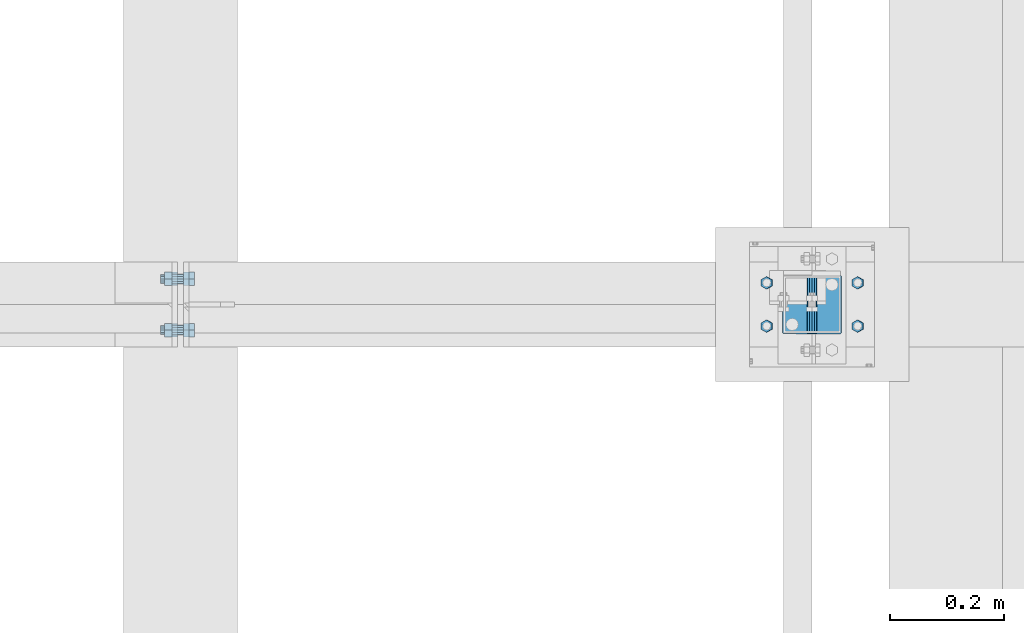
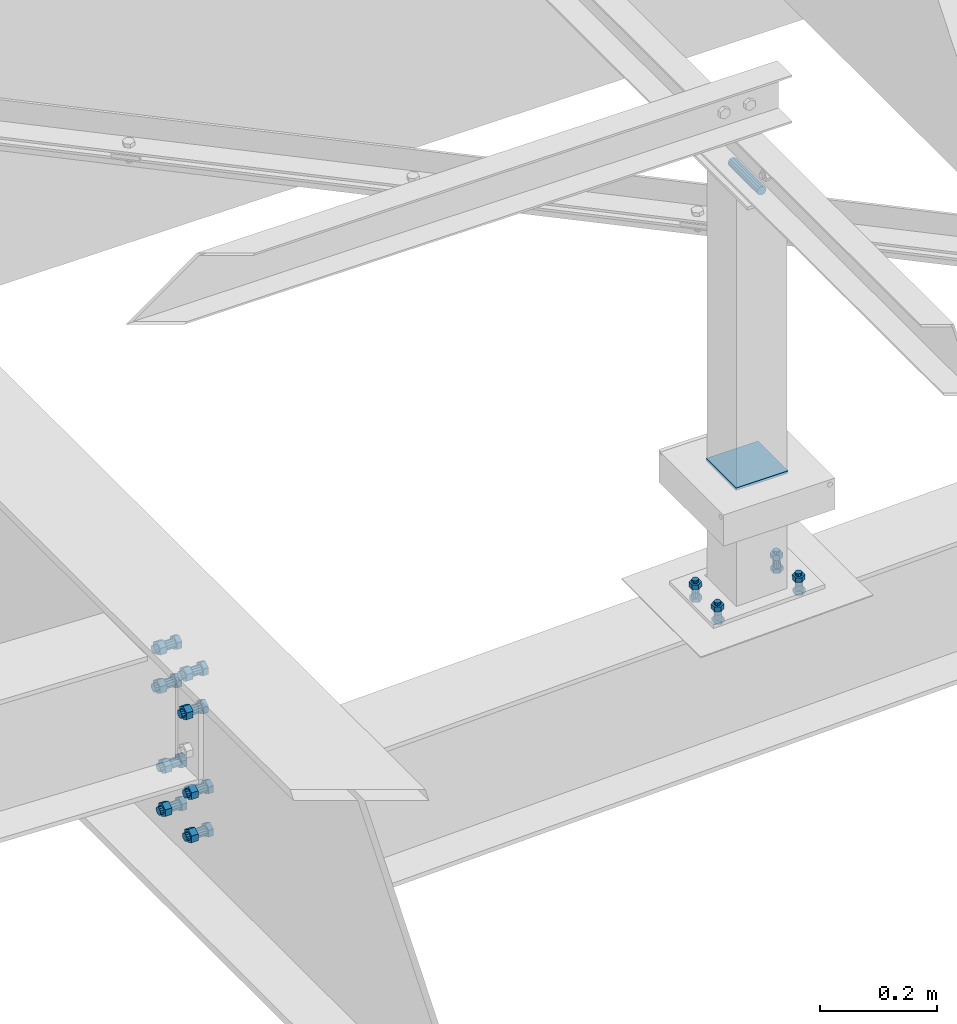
# One storey, part 193 of 3134: 7 mechanical fasteners, 3 elements without a shape of their own.
"""IFC2X3 building model written with IfcOpenShell, lengths in millimetres."""

from ifc_helpers import new_model, si_unit, frame, origin_with_axes, place, context, subcontext, project, spatial, faceted_brep, source, transform, mapped, material, type_object, element, aggregate, save


model = new_model("IFC2X3")

# Units and contexts
model_context = context("Model", 3, precision=1e-05, world=origin_with_axes())
body_context = subcontext(model_context, "Body", "Model", "MODEL_VIEW")
ifc_project = project(units=[si_unit("LENGTHUNIT", "METRE", prefix="MILLI"), si_unit("AREAUNIT", "SQUARE_METRE"), si_unit("VOLUMEUNIT", "CUBIC_METRE"), si_unit("MASSUNIT", "GRAM", prefix="KILO"), si_unit("TIMEUNIT", "SECOND"), si_unit("PLANEANGLEUNIT", "RADIAN"), si_unit("SOLIDANGLEUNIT", "STERADIAN"), si_unit("THERMODYNAMICTEMPERATUREUNIT", "DEGREE_CELSIUS"), si_unit("LUMINOUSINTENSITYUNIT", "LUMEN")], contexts=[model_context])

# Site, building, storey
site_placement = place(None, origin_with_axes())
site = spatial("IfcSite", under=ifc_project, at=site_placement, CompositionType="ELEMENT")
building_placement = place(site_placement, origin_with_axes())
building = spatial("IfcBuilding", under=site, at=building_placement, Name="Undefined", CompositionType="ELEMENT")
storey_placement = place(building_placement, origin_with_axes())
storey = spatial("IfcBuildingStorey", under=building, at=storey_placement, Name="Undefined", CompositionType="ELEMENT", Elevation=0.0)

# Assembly, mechanical fasteners
assembly_1_placement = place(storey_placement, origin_with_axes())
assembly_1 = element("IfcElementAssembly", 1, at=assembly_1_placement, inside=storey, Name="IPE500", AssemblyPlace="NOTDEFINED", PredefinedType="RIGID_FRAME")
ifc_material_1 = material(Name="8.8")
mechanical_fastener_type = type_object("IfcMechanicalFastenerType", Name="Bolt assembly")
shared_shape_1 = source(origin_with_axes(), body_context, "Body", "Brep", [
    faceted_brep([(13.856406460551, 0.0, 0.0), (6.92820323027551, 0.0, 12.0), (-6.92820323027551, 0.0, 12.0), (-13.856406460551, 0.0, 1.69692038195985e-15), (-6.92820323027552, 0.0, -12.0), (6.9282032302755, 0.0, -12.0), (6.9282032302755, 9.99999995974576, -12.0), (-6.92820323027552, 9.99999995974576, -12.0), (-13.856406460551, 9.99999995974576, 1.69692038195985e-15), (-6.92820323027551, 9.99999995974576, 12.0), (6.92820323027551, 9.99999995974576, 12.0), (13.856406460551, 9.99999995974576, 0.0), (8.0, 9.99999995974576, 0.0), (6.92820323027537, 9.99999995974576, 4.00000000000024), (3.99999999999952, 9.99999995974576, 6.92820323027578), (-8.29068785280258e-13, 9.99999995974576, 8.0), (-4.00000000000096, 9.99999995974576, 6.92820323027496), (-6.9282032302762, 9.99999995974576, 3.99999999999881), (-8.0, 9.99999995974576, -1.65813757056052e-12), (-6.92820323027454, 9.99999995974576, -4.00000000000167), (-3.99999999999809, 9.99999995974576, -6.92820323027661), (2.47832457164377e-12, 9.99999995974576, -8.0), (4.00000000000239, 9.99999995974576, -6.92820323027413), (6.92820323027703, 9.99999995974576, -3.99999999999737), (6.92820323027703, 49.9999999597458, -3.99999999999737), (4.00000000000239, 49.9999999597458, -6.92820323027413), (2.47832457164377e-12, 49.9999999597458, -8.0), (-3.99999999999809, 49.9999999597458, -6.92820323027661), (-6.92820323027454, 49.9999999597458, -4.00000000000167), (-8.0, 49.9999999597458, -1.65813757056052e-12), (-6.9282032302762, 49.9999999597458, 3.99999999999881), (-4.00000000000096, 49.9999999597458, 6.92820323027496), (-8.29068785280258e-13, 49.9999999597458, 8.0), (3.99999999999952, 49.9999999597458, 6.92820323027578), (6.92820323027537, 49.9999999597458, 4.00000000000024), (8.0, 49.9999999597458, 0.0), (13.856406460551, 30.1999997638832, 0.0), (6.92820323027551, 30.1999997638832, 12.0), (-6.92820323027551, 30.1999997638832, 12.0), (-13.856406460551, 30.1999997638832, 1.69692038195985e-15), (-6.92820323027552, 30.1999997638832, -12.0), (6.9282032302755, 30.1999997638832, -12.0), (6.9282032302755, 43.1999997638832, -12.0), (-6.92820323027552, 43.1999997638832, -12.0), (-13.856406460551, 43.1999997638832, 1.69692038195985e-15), (-6.92820323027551, 43.1999997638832, 12.0), (6.92820323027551, 43.1999997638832, 12.0), (13.856406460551, 43.1999997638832, 0.0)], [[[0, 1, 2, 3, 4, 5]], [[6, 7, 8, 9, 10, 11]], [[0, 11, 10, 1]], [[1, 10, 9, 2]], [[2, 9, 8, 3]], [[3, 8, 7, 4]], [[4, 7, 6, 5]], [[5, 6, 11, 0]], [[12, 13, 14, 15, 16, 17, 18, 19, 20, 21, 22, 23]], [[24, 25, 26, 27, 28, 29, 30, 31, 32, 33, 34, 35]], [[12, 35, 34, 13]], [[13, 34, 33, 14]], [[14, 33, 32, 15]], [[15, 32, 31, 16]], [[16, 31, 30, 17]], [[17, 30, 29, 18]], [[18, 29, 28, 19]], [[19, 28, 27, 20]], [[20, 27, 26, 21]], [[21, 26, 25, 22]], [[22, 25, 24, 23]], [[23, 24, 35, 12]], [[36, 37, 38, 39, 40, 41]], [[42, 43, 44, 45, 46, 47]], [[36, 47, 46, 37]], [[37, 46, 45, 38]], [[38, 45, 44, 39]], [[39, 44, 43, 40]], [[40, 43, 42, 41]], [[41, 42, 47, 36]]]),
    faceted_brep([(9.0, 20.0999997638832, 0.0), (7.79422863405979, 20.0999997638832, 4.50000000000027), (4.49999999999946, 20.0999997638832, 7.79422863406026), (-9.3270238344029e-13, 20.0999997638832, 9.0), (-4.50000000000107, 20.0999997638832, 7.79422863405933), (-7.79422863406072, 20.0999997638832, 4.49999999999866), (-9.0, 20.0999997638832, -1.86540476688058e-12), (-7.79422863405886, 20.0999997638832, -4.50000000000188), (-4.49999999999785, 20.0999997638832, -7.79422863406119), (2.78811514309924e-12, 20.0999997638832, -9.0), (4.50000000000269, 20.0999997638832, -7.7942286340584), (7.79422863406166, 20.0999997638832, -4.49999999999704), (7.79422863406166, 30.1999997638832, -4.49999999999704), (4.50000000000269, 30.1999997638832, -7.7942286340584), (2.78811514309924e-12, 30.1999997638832, -9.0), (-4.49999999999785, 30.1999997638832, -7.79422863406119), (-7.79422863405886, 30.1999997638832, -4.50000000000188), (-9.0, 30.1999997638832, -1.86540476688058e-12), (-7.79422863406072, 30.1999997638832, 4.49999999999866), (-4.50000000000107, 30.1999997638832, 7.79422863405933), (-9.3270238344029e-13, 30.1999997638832, 9.0), (4.49999999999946, 30.1999997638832, 7.79422863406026), (7.79422863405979, 30.1999997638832, 4.50000000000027), (9.0, 30.1999997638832, 0.0), (9.0, 10.1000023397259, 0.0), (7.79422863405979, 10.1000023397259, 4.50000000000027), (4.49999999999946, 10.1000023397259, 7.79422863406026), (-9.3270238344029e-13, 10.1000023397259, 9.0), (-4.50000000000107, 10.1000023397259, 7.79422863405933), (-7.79422863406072, 10.1000023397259, 4.49999999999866), (-9.0, 10.1000023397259, -1.86540476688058e-12), (-7.79422863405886, 10.1000023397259, -4.50000000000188), (-4.49999999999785, 10.1000023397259, -7.79422863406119), (2.78811514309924e-12, 10.1000023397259, -9.0), (4.50000000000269, 10.1000023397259, -7.7942286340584), (7.79422863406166, 10.1000023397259, -4.49999999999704), (7.79422863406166, 20.2999997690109, -4.49999999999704), (4.50000000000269, 20.2999997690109, -7.7942286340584), (2.78811514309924e-12, 20.2999997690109, -9.0), (-4.49999999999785, 20.2999997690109, -7.79422863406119), (-7.79422863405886, 20.2999997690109, -4.50000000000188), (-9.0, 20.2999997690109, -1.86540476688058e-12), (-7.79422863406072, 20.2999997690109, 4.49999999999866), (-4.50000000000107, 20.2999997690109, 7.79422863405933), (-9.3270238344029e-13, 20.2999997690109, 9.0), (4.49999999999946, 20.2999997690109, 7.79422863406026), (7.79422863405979, 20.2999997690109, 4.50000000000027), (9.0, 20.2999997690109, 0.0)], [[[0, 1, 2, 3, 4, 5, 6, 7, 8, 9, 10, 11]], [[12, 13, 14, 15, 16, 17, 18, 19, 20, 21, 22, 23]], [[0, 23, 22, 1]], [[1, 22, 21, 2]], [[2, 21, 20, 3]], [[3, 20, 19, 4]], [[4, 19, 18, 5]], [[5, 18, 17, 6]], [[6, 17, 16, 7]], [[7, 16, 15, 8]], [[8, 15, 14, 9]], [[9, 14, 13, 10]], [[10, 13, 12, 11]], [[11, 12, 23, 0]], [[24, 25, 26, 27, 28, 29, 30, 31, 32, 33, 34, 35]], [[36, 37, 38, 39, 40, 41, 42, 43, 44, 45, 46, 47]], [[24, 47, 46, 25]], [[25, 46, 45, 26]], [[26, 45, 44, 27]], [[27, 44, 43, 28]], [[28, 43, 42, 29]], [[29, 42, 41, 30]], [[30, 41, 40, 31]], [[31, 40, 39, 32]], [[32, 39, 38, 33]], [[33, 38, 37, 34]], [[34, 37, 36, 35]], [[35, 36, 47, 24]]]),
])
mechanical_fastener_1_placement = place(assembly_1_placement, frame((9310.09999986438, 42963.33, 3631.67000001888), z_axis=(0.0, 1.0, 0.0), x_axis=(0.0, 0.0, -1.0)))
mechanical_fastener_1 = element("IfcMechanicalFastener", 2, at=mechanical_fastener_1_placement, type_object=mechanical_fastener_type, material=ifc_material_1, Name="Bolt assembly", NominalDiameter=16.0, NominalLength=40.0, context=body_context, shape_type="MappedRepresentation", body=[
    mapped(shared_shape_1, transform((0.0, 0.0, 0.0))),
    mapped(shared_shape_1, transform((80.0, 0.0, 0.0))),
])
mechanical_fastener_2_placement = place(assembly_1_placement, frame((9310.09999986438, 43053.33, 3631.67000001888), z_axis=(0.0, 1.0, 0.0), x_axis=(0.0, 0.0, -1.0)))
mechanical_fastener_2 = element("IfcMechanicalFastener", 3, at=mechanical_fastener_2_placement, type_object=mechanical_fastener_type, material=ifc_material_1, Name="Bolt assembly", NominalDiameter=16.0, NominalLength=40.0, context=body_context, shape_type="MappedRepresentation", body=[
    mapped(shared_shape_1, transform((0.0, 0.0, 0.0))),
    mapped(shared_shape_1, transform((80.0, 0.0, 0.0))),
])
shared_shape_2 = source(origin_with_axes(), body_context, "Body", "Brep", [
    faceted_brep([(13.856406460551, -10.0, 0.0), (6.92820323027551, -10.0, 12.0), (-6.92820323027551, -10.0, 12.0), (-13.856406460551, -10.0, 1.69692038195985e-15), (-6.92820323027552, -10.0, -12.0), (6.9282032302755, -10.0, -12.0), (6.9282032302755, 0.0, -12.0), (-6.92820323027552, 0.0, -12.0), (-13.856406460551, 0.0, 1.69692038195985e-15), (-6.92820323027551, 0.0, 12.0), (6.92820323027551, 0.0, 12.0), (13.856406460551, 0.0, 0.0), (8.0, 0.0, 0.0), (6.92820323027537, 0.0, 4.00000000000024), (3.99999999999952, 0.0, 6.92820323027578), (-8.29068785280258e-13, 0.0, 8.0), (-4.00000000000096, 0.0, 6.92820323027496), (-6.9282032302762, 0.0, 3.99999999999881), (-8.0, 0.0, -1.65813757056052e-12), (-6.92820323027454, 0.0, -4.00000000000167), (-3.99999999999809, 0.0, -6.92820323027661), (2.47832457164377e-12, 0.0, -8.0), (4.00000000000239, 0.0, -6.92820323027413), (6.92820323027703, 0.0, -3.99999999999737), (6.92820323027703, 40.0, -3.99999999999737), (4.00000000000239, 40.0, -6.92820323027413), (2.47832457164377e-12, 40.0, -8.0), (-3.99999999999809, 40.0, -6.92820323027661), (-6.92820323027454, 40.0, -4.00000000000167), (-8.0, 40.0, -1.65813757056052e-12), (-6.9282032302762, 40.0, 3.99999999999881), (-4.00000000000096, 40.0, 6.92820323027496), (-8.29068785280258e-13, 40.0, 8.0), (3.99999999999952, 40.0, 6.92820323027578), (6.92820323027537, 40.0, 4.00000000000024), (8.0, 40.0, 0.0), (13.856406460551, 20.1999997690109, 0.0), (6.92820323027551, 20.1999997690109, 12.0), (-6.92820323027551, 20.1999997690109, 12.0), (-13.856406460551, 20.1999997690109, 1.69692038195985e-15), (-6.92820323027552, 20.1999997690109, -12.0), (6.9282032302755, 20.1999997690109, -12.0), (6.9282032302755, 33.1999997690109, -12.0), (-6.92820323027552, 33.1999997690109, -12.0), (-13.856406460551, 33.1999997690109, 1.69692038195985e-15), (-6.92820323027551, 33.1999997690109, 12.0), (6.92820323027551, 33.1999997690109, 12.0), (13.856406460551, 33.1999997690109, 0.0)], [[[0, 1, 2, 3, 4, 5]], [[6, 7, 8, 9, 10, 11]], [[0, 11, 10, 1]], [[1, 10, 9, 2]], [[2, 9, 8, 3]], [[3, 8, 7, 4]], [[4, 7, 6, 5]], [[5, 6, 11, 0]], [[12, 13, 14, 15, 16, 17, 18, 19, 20, 21, 22, 23]], [[24, 25, 26, 27, 28, 29, 30, 31, 32, 33, 34, 35]], [[12, 35, 34, 13]], [[13, 34, 33, 14]], [[14, 33, 32, 15]], [[15, 32, 31, 16]], [[16, 31, 30, 17]], [[17, 30, 29, 18]], [[18, 29, 28, 19]], [[19, 28, 27, 20]], [[20, 27, 26, 21]], [[21, 26, 25, 22]], [[22, 25, 24, 23]], [[23, 24, 35, 12]], [[36, 37, 38, 39, 40, 41]], [[42, 43, 44, 45, 46, 47]], [[36, 47, 46, 37]], [[37, 46, 45, 38]], [[38, 45, 44, 39]], [[39, 44, 43, 40]], [[40, 43, 42, 41]], [[41, 42, 47, 36]]]),
    faceted_brep([(9.0, 0.100000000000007, 0.0), (7.79422863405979, 0.100000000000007, 4.50000000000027), (4.49999999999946, 0.100000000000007, 7.79422863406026), (-9.3270238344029e-13, 0.100000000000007, 9.0), (-4.50000000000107, 0.100000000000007, 7.79422863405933), (-7.79422863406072, 0.100000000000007, 4.49999999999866), (-9.0, 0.100000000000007, -1.86540476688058e-12), (-7.79422863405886, 0.100000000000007, -4.50000000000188), (-4.49999999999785, 0.100000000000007, -7.79422863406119), (2.78811514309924e-12, 0.100000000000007, -9.0), (4.50000000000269, 0.100000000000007, -7.7942286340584), (7.79422863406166, 0.100000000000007, -4.49999999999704), (7.79422863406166, 10.1000023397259, -4.49999999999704), (4.50000000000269, 10.1000023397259, -7.7942286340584), (2.78811514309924e-12, 10.1000023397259, -9.0), (-4.49999999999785, 10.1000023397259, -7.79422863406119), (-7.79422863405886, 10.1000023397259, -4.50000000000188), (-9.0, 10.1000023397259, -1.86540476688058e-12), (-7.79422863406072, 10.1000023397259, 4.49999999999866), (-4.50000000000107, 10.1000023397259, 7.79422863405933), (-9.3270238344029e-13, 10.1000023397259, 9.0), (4.49999999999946, 10.1000023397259, 7.79422863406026), (7.79422863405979, 10.1000023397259, 4.50000000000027), (9.0, 10.1000023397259, 0.0), (9.0, 9.89999999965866, 0.0), (7.79422863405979, 9.89999999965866, 4.50000000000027), (4.49999999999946, 9.89999999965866, 7.79422863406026), (-9.3270238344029e-13, 9.89999999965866, 9.0), (-4.50000000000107, 9.89999999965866, 7.79422863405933), (-7.79422863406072, 9.89999999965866, 4.49999999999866), (-9.0, 9.89999999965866, -1.86540476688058e-12), (-7.79422863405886, 9.89999999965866, -4.50000000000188), (-4.49999999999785, 9.89999999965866, -7.79422863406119), (2.78811514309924e-12, 9.89999999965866, -9.0), (4.50000000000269, 9.89999999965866, -7.7942286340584), (7.79422863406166, 9.89999999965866, -4.49999999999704), (7.79422863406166, 20.1999997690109, -4.49999999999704), (4.50000000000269, 20.1999997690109, -7.7942286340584), (2.78811514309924e-12, 20.1999997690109, -9.0), (-4.49999999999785, 20.1999997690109, -7.79422863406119), (-7.79422863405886, 20.1999997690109, -4.50000000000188), (-9.0, 20.1999997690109, -1.86540476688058e-12), (-7.79422863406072, 20.1999997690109, 4.49999999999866), (-4.50000000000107, 20.1999997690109, 7.79422863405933), (-9.3270238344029e-13, 20.1999997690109, 9.0), (4.49999999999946, 20.1999997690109, 7.79422863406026), (7.79422863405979, 20.1999997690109, 4.50000000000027), (9.0, 20.1999997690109, 0.0)], [[[0, 1, 2, 3, 4, 5, 6, 7, 8, 9, 10, 11]], [[12, 13, 14, 15, 16, 17, 18, 19, 20, 21, 22, 23]], [[0, 23, 22, 1]], [[1, 22, 21, 2]], [[2, 21, 20, 3]], [[3, 20, 19, 4]], [[4, 19, 18, 5]], [[5, 18, 17, 6]], [[6, 17, 16, 7]], [[7, 16, 15, 8]], [[8, 15, 14, 9]], [[9, 14, 13, 10]], [[10, 13, 12, 11]], [[11, 12, 23, 0]], [[24, 25, 26, 27, 28, 29, 30, 31, 32, 33, 34, 35]], [[36, 37, 38, 39, 40, 41, 42, 43, 44, 45, 46, 47]], [[24, 47, 46, 25]], [[25, 46, 45, 26]], [[26, 45, 44, 27]], [[27, 44, 43, 28]], [[28, 43, 42, 29]], [[29, 42, 41, 30]], [[30, 41, 40, 31]], [[31, 40, 39, 32]], [[32, 39, 38, 33]], [[33, 38, 37, 34]], [[34, 37, 36, 35]], [[35, 36, 47, 24]]]),
])
mechanical_fastener_3_placement = place(assembly_1_placement, frame((9310.09999986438, 42963.33, 3381.67000001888), z_axis=(0.0, 1.0, 0.0), x_axis=(0.0, 0.0, -1.0)))
mechanical_fastener_3 = element("IfcMechanicalFastener", 4, at=mechanical_fastener_3_placement, type_object=mechanical_fastener_type, material=ifc_material_1, Name="Bolt assembly", NominalDiameter=16.0, NominalLength=40.0, context=body_context, shape_type="MappedRepresentation", body=[
    mapped(shared_shape_2, transform((0.0, 0.0, 0.0))),
    mapped(shared_shape_2, transform((90.0, 0.0, 0.0))),
])
mechanical_fastener_4_placement = place(assembly_1_placement, frame((9310.09999986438, 43053.33, 3381.67000001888), z_axis=(0.0, 1.0, 0.0), x_axis=(0.0, 0.0, -1.0)))
mechanical_fastener_4 = element("IfcMechanicalFastener", 5, at=mechanical_fastener_4_placement, type_object=mechanical_fastener_type, material=ifc_material_1, Name="Bolt assembly", NominalDiameter=16.0, NominalLength=40.0, context=body_context, shape_type="MappedRepresentation", body=[
    mapped(shared_shape_2, transform((0.0, 0.0, 0.0))),
    mapped(shared_shape_2, transform((90.0, 0.0, 0.0))),
])
aggregate(assembly_1, [mechanical_fastener_1, mechanical_fastener_2, mechanical_fastener_3, mechanical_fastener_4])

# Assembly, mechanical fastener
assembly_2_placement = place(storey_placement, origin_with_axes())
assembly_2 = element("IfcElementAssembly", 6, at=assembly_2_placement, inside=storey, Name="300", AssemblyPlace="NOTDEFINED", PredefinedType="RIGID_FRAME")
shared_shape_3 = source(origin_with_axes(), body_context, "Body", "Brep", [
    faceted_brep([(10.9696551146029, -4.1984682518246, 0.0), (5.48482755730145, -4.1984682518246, 9.5), (-5.48482755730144, -4.1984682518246, 9.5), (-10.9696551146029, -4.1984682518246, 1.34339530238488e-15), (-5.48482755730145, -4.1984682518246, -9.5), (5.48482755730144, -4.1984682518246, -9.50000000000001), (5.48482755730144, 3.8015317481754, -9.50000000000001), (-5.48482755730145, 3.8015317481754, -9.5), (-10.9696551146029, 3.8015317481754, 1.34339530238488e-15), (-5.48482755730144, 3.8015317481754, 9.5), (5.48482755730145, 3.8015317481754, 9.5), (10.9696551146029, 3.8015317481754, 0.0), (6.0, 3.8015317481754, 0.0), (5.19615242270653, 3.8015317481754, 3.00000000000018), (2.99999999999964, 3.8015317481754, 5.19615242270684), (-6.21801588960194e-13, 3.8015317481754, 6.0), (-3.00000000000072, 3.8015317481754, 5.19615242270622), (-5.19615242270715, 3.8015317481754, 2.9999999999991), (-6.0, 3.8015317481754, -1.24360317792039e-12), (-5.19615242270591, 3.8015317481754, -3.00000000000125), (-2.99999999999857, 3.8015317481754, -5.19615242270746), (1.85874342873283e-12, 3.8015317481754, -6.0), (3.00000000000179, 3.8015317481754, -5.1961524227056), (5.19615242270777, 3.8015317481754, -2.99999999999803), (5.19615242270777, 38.8015317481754, -2.99999999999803), (3.00000000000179, 38.8015317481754, -5.1961524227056), (1.85874342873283e-12, 38.8015317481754, -6.0), (-2.99999999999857, 38.8015317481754, -5.19615242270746), (-5.19615242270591, 38.8015317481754, -3.00000000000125), (-6.0, 38.8015317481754, -1.24360317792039e-12), (-5.19615242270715, 38.8015317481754, 2.9999999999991), (-3.00000000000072, 38.8015317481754, 5.19615242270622), (-6.21801588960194e-13, 38.8015317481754, 6.0), (2.99999999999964, 38.8015317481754, 5.19615242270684), (5.19615242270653, 38.8015317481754, 3.00000000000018), (6.0, 38.8015317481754, 0.0), (10.9696551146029, 23.0039050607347, 0.0), (5.48482755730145, 23.0039050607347, 9.5), (-5.48482755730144, 23.0039050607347, 9.5), (-10.9696551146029, 23.0039050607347, 1.34339530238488e-15), (-5.48482755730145, 23.0039050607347, -9.5), (5.48482755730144, 23.0039050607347, -9.50000000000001), (5.48482755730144, 33.0039050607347, -9.50000000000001), (-5.48482755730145, 33.0039050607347, -9.5), (-10.9696551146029, 33.0039050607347, 1.34339530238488e-15), (-5.48482755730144, 33.0039050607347, 9.5), (5.48482755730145, 33.0039050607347, 9.5), (10.9696551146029, 33.0039050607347, 0.0)], [[[0, 1, 2, 3, 4, 5]], [[6, 7, 8, 9, 10, 11]], [[0, 11, 10, 1]], [[1, 10, 9, 2]], [[2, 9, 8, 3]], [[3, 8, 7, 4]], [[4, 7, 6, 5]], [[5, 6, 11, 0]], [[12, 13, 14, 15, 16, 17, 18, 19, 20, 21, 22, 23]], [[24, 25, 26, 27, 28, 29, 30, 31, 32, 33, 34, 35]], [[12, 35, 34, 13]], [[13, 34, 33, 14]], [[14, 33, 32, 15]], [[15, 32, 31, 16]], [[16, 31, 30, 17]], [[17, 30, 29, 18]], [[18, 29, 28, 19]], [[19, 28, 27, 20]], [[20, 27, 26, 21]], [[21, 26, 25, 22]], [[22, 25, 24, 23]], [[23, 24, 35, 12]], [[36, 37, 38, 39, 40, 41]], [[42, 43, 44, 45, 46, 47]], [[36, 47, 46, 37]], [[37, 46, 45, 38]], [[38, 45, 44, 39]], [[39, 44, 43, 40]], [[40, 43, 42, 41]], [[41, 42, 47, 36]]]),
    faceted_brep([(7.0, 14.9039050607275, 0.0), (6.06217782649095, 14.9039050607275, 3.50000000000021), (3.49999999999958, 14.9039050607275, 6.06217782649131), (-7.25435187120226e-13, 14.9039050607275, 7.0), (-3.50000000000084, 14.9039050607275, 6.06217782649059), (-6.06217782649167, 14.9039050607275, 3.49999999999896), (-7.0, 14.9039050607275, -1.45087037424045e-12), (-6.06217782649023, 14.9039050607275, -3.50000000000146), (-3.49999999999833, 14.9039050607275, -6.06217782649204), (2.1685340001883e-12, 14.9039050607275, -7.0), (3.50000000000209, 14.9039050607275, -6.06217782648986), (6.0621778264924, 14.9039050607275, -3.4999999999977), (6.0621778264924, 23.0039050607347, -3.4999999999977), (3.50000000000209, 23.0039050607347, -6.06217782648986), (2.1685340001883e-12, 23.0039050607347, -7.0), (-3.49999999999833, 23.0039050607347, -6.06217782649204), (-6.06217782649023, 23.0039050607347, -3.50000000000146), (-7.0, 23.0039050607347, -1.45087037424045e-12), (-6.06217782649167, 23.0039050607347, 3.49999999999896), (-3.50000000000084, 23.0039050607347, 6.06217782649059), (-7.25435187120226e-13, 23.0039050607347, 7.0), (3.49999999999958, 23.0039050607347, 6.06217782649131), (6.06217782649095, 23.0039050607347, 3.50000000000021), (7.0, 23.0039050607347, 0.0), (7.0, 3.9015317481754, 0.0), (6.06217782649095, 3.9015317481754, 3.50000000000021), (3.49999999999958, 3.9015317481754, 6.06217782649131), (-7.25435187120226e-13, 3.9015317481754, 7.0), (-3.50000000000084, 3.9015317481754, 6.06217782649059), (-6.06217782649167, 3.9015317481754, 3.49999999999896), (-7.0, 3.9015317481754, -1.45087037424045e-12), (-6.06217782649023, 3.9015317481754, -3.50000000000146), (-3.49999999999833, 3.9015317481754, -6.06217782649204), (2.1685340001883e-12, 3.9015317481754, -7.0), (3.50000000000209, 3.9015317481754, -6.06217782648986), (6.0621778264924, 3.9015317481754, -3.4999999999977), (6.0621778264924, 13.1015315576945, -3.4999999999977), (3.50000000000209, 13.1015315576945, -6.06217782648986), (2.1685340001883e-12, 13.1015315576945, -7.0), (-3.49999999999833, 13.1015315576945, -6.06217782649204), (-6.06217782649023, 13.1015315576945, -3.50000000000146), (-7.0, 13.1015315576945, -1.45087037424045e-12), (-6.06217782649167, 13.1015315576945, 3.49999999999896), (-3.50000000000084, 13.1015315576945, 6.06217782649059), (-7.25435187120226e-13, 13.1015315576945, 7.0), (3.49999999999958, 13.1015315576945, 6.06217782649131), (6.06217782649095, 13.1015315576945, 3.50000000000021), (7.0, 13.1015315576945, 0.0)], [[[0, 1, 2, 3, 4, 5, 6, 7, 8, 9, 10, 11]], [[12, 13, 14, 15, 16, 17, 18, 19, 20, 21, 22, 23]], [[0, 23, 22, 1]], [[1, 22, 21, 2]], [[2, 21, 20, 3]], [[3, 20, 19, 4]], [[4, 19, 18, 5]], [[5, 18, 17, 6]], [[6, 17, 16, 7]], [[7, 16, 15, 8]], [[8, 15, 14, 9]], [[9, 14, 13, 10]], [[10, 13, 12, 11]], [[11, 12, 23, 0]], [[24, 25, 26, 27, 28, 29, 30, 31, 32, 33, 34, 35]], [[36, 37, 38, 39, 40, 41, 42, 43, 44, 45, 46, 47]], [[24, 47, 46, 25]], [[25, 46, 45, 26]], [[26, 45, 44, 27]], [[27, 44, 43, 28]], [[28, 43, 42, 29]], [[29, 42, 41, 30]], [[30, 41, 40, 31]], [[31, 40, 39, 32]], [[32, 39, 38, 33]], [[33, 38, 37, 34]], [[34, 37, 36, 35]], [[35, 36, 47, 24]]]),
])
mechanical_fastener_5_placement = place(assembly_2_placement, frame((10405.7748812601, 42970.33, 3374.2272055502), z_axis=(0.999519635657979, 0.0, 0.0309919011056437), x_axis=(0.0, 1.0, 0.0)))
mechanical_fastener_5 = element("IfcMechanicalFastener", 7, at=mechanical_fastener_5_placement, type_object=mechanical_fastener_type, material=ifc_material_1, Name="Bolt assembly", NominalDiameter=12.0, NominalLength=35.0, context=body_context, shape_type="MappedRepresentation", body=[
    mapped(shared_shape_3, transform((0.0, -5.32963895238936e-10, -79.9999999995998))),
    mapped(shared_shape_3, transform((76.0, -5.32963895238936e-10, -79.9999999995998))),
    mapped(shared_shape_3, transform((0.0, 5.3114490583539e-10, 79.9999999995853))),
    mapped(shared_shape_3, transform((76.0, 5.3114490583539e-10, 79.9999999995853))),
])
aggregate(assembly_2, [mechanical_fastener_5])

# Assembly, mechanical fasteners
assembly_3_placement = place(storey_placement, origin_with_axes())
assembly_3 = element("IfcElementAssembly", 8, at=assembly_3_placement, inside=storey, AssemblyPlace="NOTDEFINED", PredefinedType="RIGID_FRAME")
shared_shape_4 = source(origin_with_axes(), body_context, "Body", "Brep", [
    faceted_brep([(9.0, -50.0, 0.0), (7.79422863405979, -50.0, 4.50000000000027), (4.49999999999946, -50.0, 7.79422863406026), (-9.3270238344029e-13, -50.0, 9.0), (-4.50000000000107, -50.0, 7.79422863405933), (-7.79422863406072, -50.0, 4.49999999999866), (-9.0, -50.0, -1.86540476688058e-12), (-7.79422863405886, -50.0, -4.50000000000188), (-4.49999999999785, -50.0, -7.79422863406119), (2.78811514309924e-12, -50.0, -9.0), (4.50000000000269, -50.0, -7.7942286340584), (7.79422863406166, -50.0, -4.49999999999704), (7.79422863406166, 50.1, -4.49999999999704), (4.50000000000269, 50.1, -7.7942286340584), (2.78811514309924e-12, 50.1, -9.0), (-4.49999999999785, 50.1, -7.79422863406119), (-7.79422863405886, 50.1, -4.50000000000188), (-9.0, 50.1, -1.86540476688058e-12), (-7.79422863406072, 50.1, 4.49999999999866), (-4.50000000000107, 50.1, 7.79422863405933), (-9.3270238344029e-13, 50.1, 9.0), (4.49999999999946, 50.1, 7.79422863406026), (7.79422863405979, 50.1, 4.50000000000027), (9.0, 50.1, 0.0)], [[[0, 1, 2, 3, 4, 5, 6, 7, 8, 9, 10, 11]], [[12, 13, 14, 15, 16, 17, 18, 19, 20, 21, 22, 23]], [[0, 23, 22, 1]], [[1, 22, 21, 2]], [[2, 21, 20, 3]], [[3, 20, 19, 4]], [[4, 19, 18, 5]], [[5, 18, 17, 6]], [[6, 17, 16, 7]], [[7, 16, 15, 8]], [[8, 15, 14, 9]], [[9, 14, 13, 10]], [[10, 13, 12, 11]], [[11, 12, 23, 0]]]),
])
mechanical_fastener_6_placement = place(assembly_3_placement, frame((10405.0, 43008.33, 4245.0), z_axis=(-1.0, 0.0, 0.0), x_axis=(0.0, 0.0, 1.0)))
mechanical_fastener_6 = element("IfcMechanicalFastener", 9, at=mechanical_fastener_6_placement, type_object=mechanical_fastener_type, material=ifc_material_1, Name="Bolt assembly", NominalDiameter=16.0, NominalLength=100.0, context=body_context, shape_type="MappedRepresentation", body=[
    mapped(shared_shape_4, transform((0.0, 0.0, 0.0))),
])
ifc_material_2 = material(Name="6.8")
shared_shape_5 = source(origin_with_axes(), body_context, "Body", "Brep", [
    faceted_brep([(51.5, 1.36424205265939e-12, 50.0), (51.3858192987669, 1.36424205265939e-12, 50.5740251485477), (51.0606601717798, 1.36424205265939e-12, 51.0606601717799), (50.5740251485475, 1.36424205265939e-12, 51.385819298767), (-50.0000000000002, 1.36424205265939e-12, 51.5), (-50.7500000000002, 1.36424205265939e-12, 51.2990381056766), (-51.2990381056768, 1.36424205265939e-12, 50.7499999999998), (-51.5, 1.36424205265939e-12, 49.9999999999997), (-51.5, 1.36424205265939e-12, -50.0000000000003), (-51.2990381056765, 1.36424205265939e-12, -50.7500000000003), (-50.7499999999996, 1.36424205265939e-12, -51.2990381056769), (-49.9999999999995, 1.36424205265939e-12, -51.5), (50.0000000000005, 1.36424205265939e-12, -51.5), (50.7500000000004, 1.36424205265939e-12, -51.2990381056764), (51.2990381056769, 1.36424205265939e-12, -50.7499999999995), (51.5, 1.36424205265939e-12, -49.9999999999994), (51.5, 5.10000000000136, -49.9999999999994), (51.2990381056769, 5.10000000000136, -50.7499999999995), (50.7500000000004, 5.10000000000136, -51.2990381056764), (50.0000000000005, 5.10000000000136, -51.5), (-49.9999999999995, 5.10000000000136, -51.5), (-50.7499999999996, 5.10000000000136, -51.2990381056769), (-51.2990381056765, 5.10000000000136, -50.7500000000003), (-51.5, 5.10000000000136, -50.0000000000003), (-51.5, 5.10000000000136, 49.9999999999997), (-51.2990381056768, 5.10000000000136, 50.7499999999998), (-50.7500000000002, 5.10000000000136, 51.2990381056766), (-50.0000000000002, 5.10000000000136, 51.5), (50.5740251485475, 5.10000000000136, 51.385819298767), (51.0606601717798, 5.10000000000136, 51.0606601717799), (51.3858192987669, 5.10000000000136, 50.5740251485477), (51.5, 5.10000000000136, 50.0)], [[[0, 1, 2, 3, 4, 5, 6, 7, 8, 9, 10, 11, 12, 13, 14, 15]], [[16, 17, 18, 19, 20, 21, 22, 23, 24, 25, 26, 27, 28, 29, 30, 31]], [[0, 31, 30, 1]], [[1, 30, 29, 2]], [[2, 29, 28, 3]], [[3, 28, 27, 4]], [[4, 27, 26, 5]], [[5, 26, 25, 6]], [[6, 25, 24, 7]], [[7, 24, 23, 8]], [[8, 23, 22, 9]], [[9, 22, 21, 10]], [[10, 21, 20, 11]], [[11, 20, 19, 12]], [[12, 19, 18, 13]], [[13, 18, 17, 14]], [[14, 17, 16, 15]], [[15, 16, 31, 0]]]),
])
mechanical_fastener_7_placement = place(assembly_3_placement, frame((10405.0, 43008.33, 3643.81), z_axis=(0.0, -1.0, 0.0), x_axis=(-1.0, 0.0, 0.0)))
mechanical_fastener_7 = element("IfcMechanicalFastener", 10, at=mechanical_fastener_7_placement, type_object=mechanical_fastener_type, material=ifc_material_2, Name="Bolt assembly", NominalDiameter=10.0, NominalLength=5.0, context=body_context, shape_type="MappedRepresentation", body=[
    mapped(shared_shape_5, transform((0.0, 0.0, 0.0))),
])
aggregate(assembly_3, [mechanical_fastener_7, mechanical_fastener_6])

save(model, "model.ifc")
